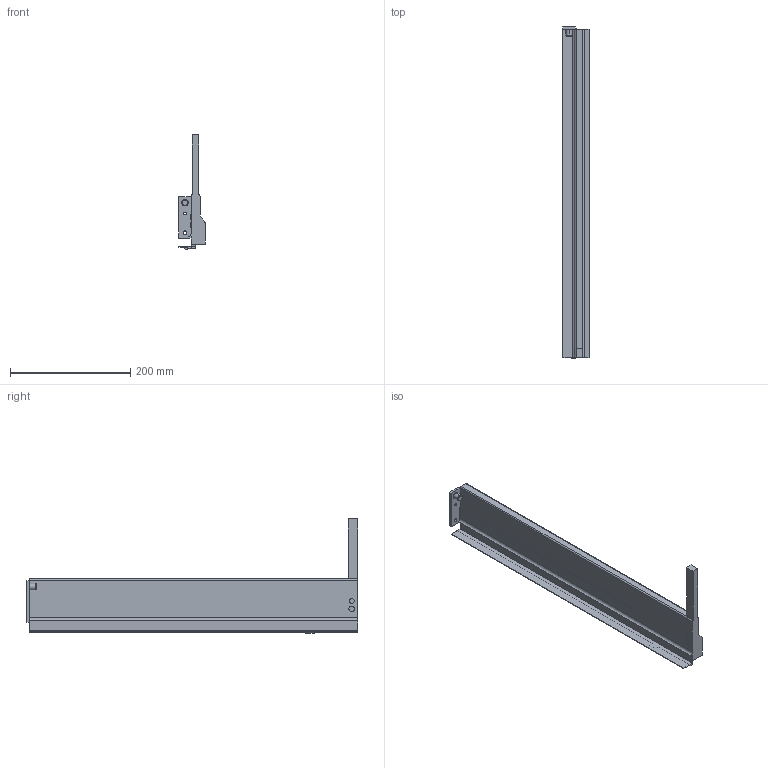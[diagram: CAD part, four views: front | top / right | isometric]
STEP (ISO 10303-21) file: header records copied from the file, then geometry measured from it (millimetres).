
FILE_DESCRIPTION (( 'STEP AP214' ), '1' );
FILE_NAME ('IMOS_NOVA-Pro_Crystal_Dekor-H90_CL_NL550_RE.step', '2010-09-28T09:47:03', ( 'Grass' ), ( '' ), 'SwSTEP 2.0', 'SolidWorks 2010', '' );
FILE_SCHEMA (( 'AUTOMOTIVE_DESIGN' ));
Length unit declared in the file: millimetre
Products named in the file (1): IMOS_NOVA-Pro_Crystal_Dekor-H90_CL_NL550_RE
Bounding box: 44.3 x 552.7 x 190.38 mm (x, y, z)
Volume: 502332.2 mm3; surface area: 195257.4 mm2
Topology: 1 solids, 1 shells, 94 faces, 256 edges, 169 vertices
Faces by surface type: plane 59, cylinder 30, cone 4, bspline 1
Entity records: 3009 total; most frequent: CARTESIAN_POINT 533, ORIENTED_EDGE 512, DIRECTION 506, EDGE_CURVE 256, LINE 190, VECTOR 190, VERTEX_POINT 169, AXIS2_PLACEMENT_3D 158
